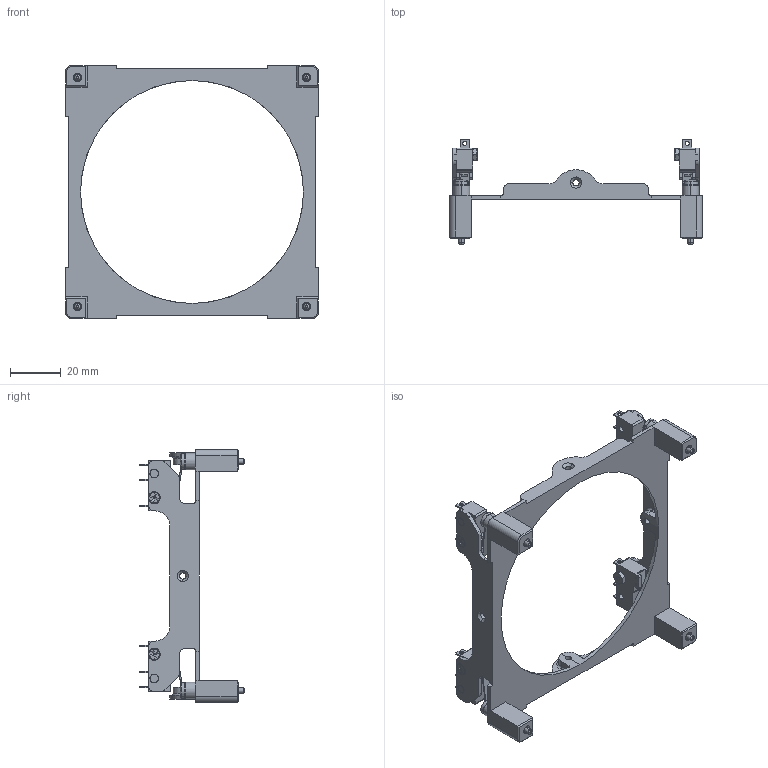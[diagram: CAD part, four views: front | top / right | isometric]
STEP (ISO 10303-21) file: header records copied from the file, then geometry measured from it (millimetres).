
FILE_DESCRIPTION (( 'STEP AP214' ), '1' );
FILE_NAME ('O1 Large Aperture Cover Plate w Sep Switches.STEP', '2023-06-09T23:55:35', ( '' ), ( '' ), 'SwSTEP 2.0', 'SolidWorks 2020', '' );
FILE_SCHEMA (( 'AUTOMOTIVE_DESIGN' ));
Length unit declared in the file: inch
Products named in the file (1): O1 Large Aperture Cover Plate w Sep Switches
Bounding box: 100 x 41.4 x 100 mm (x, y, z)
Volume: 20101 mm3; surface area: 22230.5 mm2
Topology: 1 solids, 49 shells, 1699 faces, 4228 edges, 2540 vertices
Faces by surface type: cone 652, plane 547, cylinder 448, torus 36, sphere 16
Entity records: 50898 total; most frequent: DIRECTION 9260, CARTESIAN_POINT 9226, ORIENTED_EDGE 8440, EDGE_CURVE 4220, AXIS2_PLACEMENT_3D 3450, VERTEX_POINT 2540, LINE 2360, VECTOR 2360
